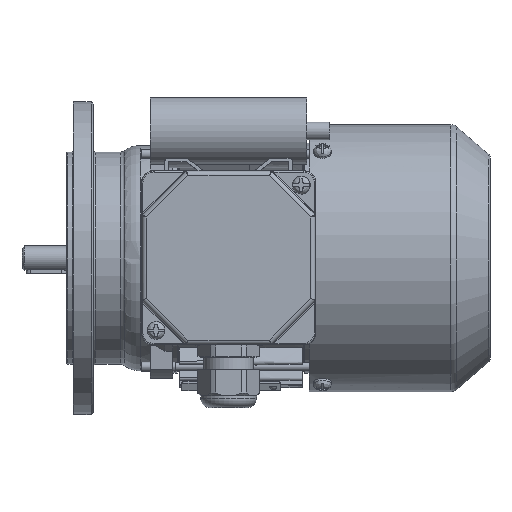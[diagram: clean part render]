
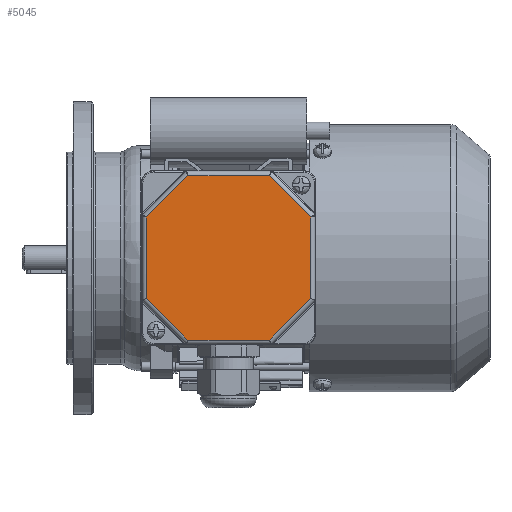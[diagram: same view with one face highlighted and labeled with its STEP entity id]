
A CAD part, top view. The second image highlights one B-rep face of the part: STEP entity #5045.
In plain terms, the highlighted planar face has unit normal (0, 0, 1).
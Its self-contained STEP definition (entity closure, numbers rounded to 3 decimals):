
#5045 = ADVANCED_FACE( '', ( #9943 ), #9944, .T. );
#9943 = FACE_OUTER_BOUND( '', #23548, .T. );
#9944 = PLANE( '', #23549 );
#23548 = EDGE_LOOP( '', ( #37382, #37383, #37384, #37385, #37386, #37387, #37388, #37389 ) );
#23549 = AXIS2_PLACEMENT_3D( '', #37390, #37391, #37392 );
#37382 = ORIENTED_EDGE( '', *, *, #41451, .T. );
#37383 = ORIENTED_EDGE( '', *, *, #43046, .T. );
#37384 = ORIENTED_EDGE( '', *, *, #43990, .T. );
#37385 = ORIENTED_EDGE( '', *, *, #40175, .T. );
#37386 = ORIENTED_EDGE( '', *, *, #40071, .T. );
#37387 = ORIENTED_EDGE( '', *, *, #40541, .T. );
#37388 = ORIENTED_EDGE( '', *, *, #38861, .T. );
#37389 = ORIENTED_EDGE( '', *, *, #39204, .T. );
#37390 = CARTESIAN_POINT( '', ( -39., 39., 12. ) );
#37391 = DIRECTION( '', ( 0., 0., 1. ) );
#37392 = DIRECTION( '', ( 1., 0., 0. ) );
#38861 = EDGE_CURVE( '', #46476, #46477, #46478, .F. );
#39204 = EDGE_CURVE( '', #46477, #47092, #47094, .T. );
#40071 = EDGE_CURVE( '', #48573, #48574, #48575, .F. );
#40175 = EDGE_CURVE( '', #48245, #48573, #48747, .T. );
#40541 = EDGE_CURVE( '', #48574, #46476, #49339, .T. );
#41451 = EDGE_CURVE( '', #47092, #49717, #50727, .F. );
#43046 = EDGE_CURVE( '', #49717, #46959, #52918, .T. );
#43990 = EDGE_CURVE( '', #46959, #48245, #53995, .F. );
#46476 = VERTEX_POINT( '', #55253 );
#46477 = VERTEX_POINT( '', #55254 );
#46478 = LINE( '', #55255, #55256 );
#46959 = VERTEX_POINT( '', #56052 );
#47092 = VERTEX_POINT( '', #56321 );
#47094 = LINE( '', #56323, #56324 );
#48245 = VERTEX_POINT( '', #58952 );
#48573 = VERTEX_POINT( '', #59534 );
#48574 = VERTEX_POINT( '', #59535 );
#48575 = LINE( '', #59536, #59537 );
#48747 = LINE( '', #60090, #60091 );
#49339 = LINE( '', #61483, #61484 );
#49717 = VERTEX_POINT( '', #62264 );
#50727 = LINE( '', #64642, #64643 );
#52918 = LINE( '', #69696, #69697 );
#53995 = LINE( '', #71621, #71622 );
#55253 = CARTESIAN_POINT( '', ( -18.255, -36.825, 12. ) );
#55254 = CARTESIAN_POINT( '', ( 18.255, -36.825, 12. ) );
#55255 = CARTESIAN_POINT( '', ( 19.069, -36.825, 12. ) );
#55256 = VECTOR( '', #73025, 1000. );
#56052 = CARTESIAN_POINT( '', ( 18.255, 36.825, 12. ) );
#56321 = CARTESIAN_POINT( '', ( 36.825, -18.255, 12. ) );
#56323 = CARTESIAN_POINT( '', ( 37.401, -17.679, 12. ) );
#56324 = VECTOR( '', #73472, 1000. );
#58952 = CARTESIAN_POINT( '', ( -18.255, 36.825, 12. ) );
#59534 = CARTESIAN_POINT( '', ( -36.825, 18.255, 12. ) );
#59535 = CARTESIAN_POINT( '', ( -36.825, -18.255, 12. ) );
#59536 = CARTESIAN_POINT( '', ( -36.825, -19.069, 12. ) );
#59537 = VECTOR( '', #74507, 1000. );
#60090 = CARTESIAN_POINT( '', ( -37.401, 17.679, 12. ) );
#60091 = VECTOR( '', #74636, 1000. );
#61483 = CARTESIAN_POINT( '', ( -17.679, -37.401, 12. ) );
#61484 = VECTOR( '', #75049, 1000. );
#62264 = CARTESIAN_POINT( '', ( 36.825, 18.255, 12. ) );
#64642 = CARTESIAN_POINT( '', ( 36.825, 19.069, 12. ) );
#64643 = VECTOR( '', #76033, 1000. );
#69696 = CARTESIAN_POINT( '', ( 17.679, 37.401, 12. ) );
#69697 = VECTOR( '', #77732, 1000. );
#71621 = CARTESIAN_POINT( '', ( -19.069, 36.825, 12. ) );
#71622 = VECTOR( '', #78645, 1000. );
#73025 = DIRECTION( '', ( -1., 0., 0. ) );
#73472 = DIRECTION( '', ( 0.707, 0.707, 0. ) );
#74507 = DIRECTION( '', ( 0., 1., 0. ) );
#74636 = DIRECTION( '', ( -0.707, -0.707, 0. ) );
#75049 = DIRECTION( '', ( 0.707, -0.707, 0. ) );
#76033 = DIRECTION( '', ( 0., -1., 0. ) );
#77732 = DIRECTION( '', ( -0.707, 0.707, 0. ) );
#78645 = DIRECTION( '', ( 1., 0., 0. ) );
